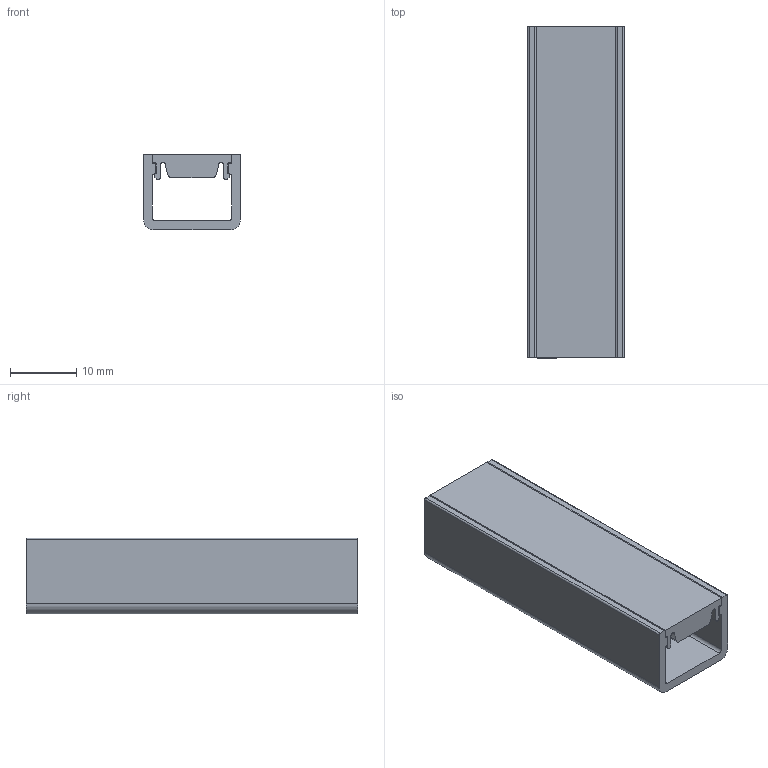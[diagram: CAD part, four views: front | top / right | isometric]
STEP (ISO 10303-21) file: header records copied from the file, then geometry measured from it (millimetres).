
FILE_DESCRIPTION(('STEP AP214'),'1');
FILE_NAME('KERYO & RYO_xx_only mechanic.stp','2025-11-07T12:36:51',(' '),(' '),'Spatial InterOp 3D',' ',' ');
FILE_SCHEMA(('AUTOMOTIVE_DESIGN { 1 0 10303 214 1 1 1 1 }'));
Length unit declared in the file: metre
Products named in the file (2): 1762515987; 1762510767
Bounding box: 14.6 x 50 x 11.4 mm (x, y, z)
Volume: 4147.7 mm3; surface area: 5671 mm2
Topology: 2 solids, 2 shells, 66 faces, 186 edges, 124 vertices
Faces by surface type: cylinder 34, plane 32
Entity records: 2857 total; most frequent: DIRECTION 390, CARTESIAN_POINT 378, ORIENTED_EDGE 372, EDGE_CURVE 186, AXIS2_PLACEMENT_3D 136, VERTEX_POINT 124, LINE 118, VECTOR 118
